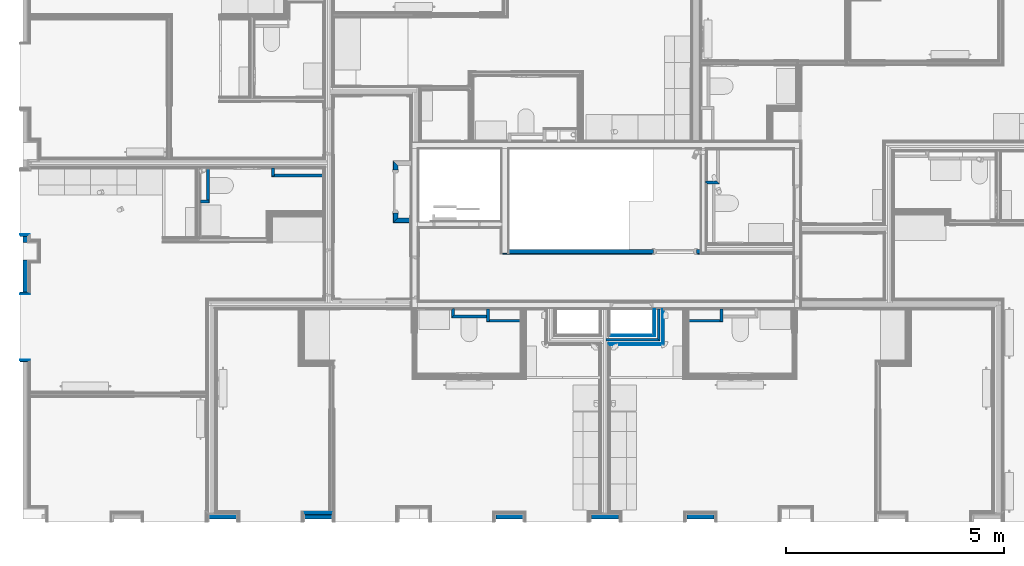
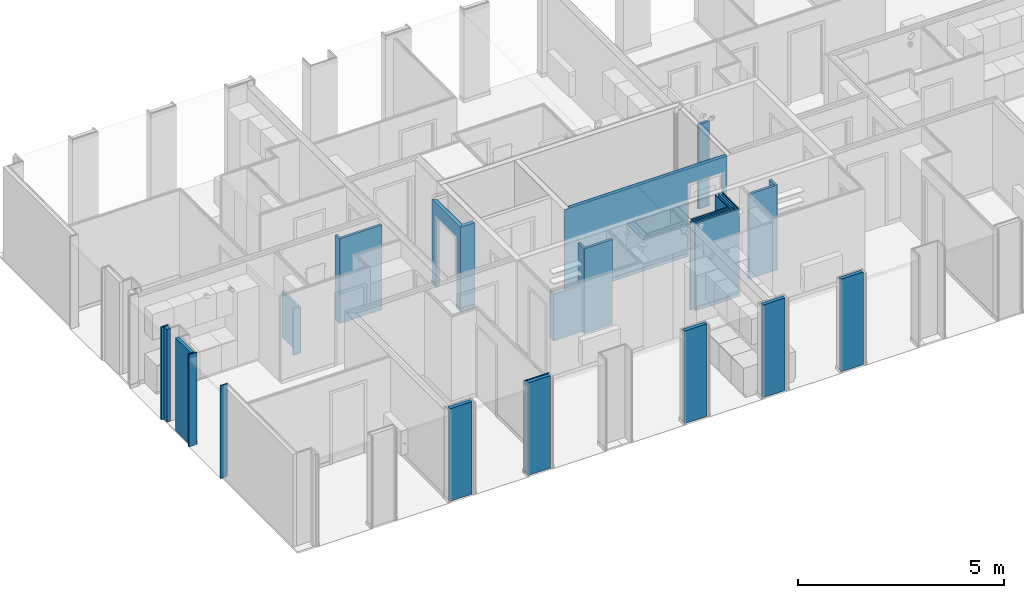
# One storey, part 2 of 85: 40 walls, 2 openings.
"""IFC2X3 building model written with IfcOpenShell, lengths in metres."""

from ifc_helpers import new_model, entity, si_unit, converted_unit, derived_unit, money_unit, direction, frame, frame_2d, origin_with_axes, place, context, subcontext, project, spatial, polyline, rectangle, outline, extrude, clip, bounded_halfspace, material, layer, layer_set, layer_usage, type_object, element, save


model = new_model("IFC2X3")

# Units and contexts
model_context = context("Model", 3, precision=1e-05, world=origin_with_axes(), true_north=direction((0.0, 1.0)))
body_context = subcontext(model_context, "Body", "Model", "MODEL_VIEW", scale=1.0)
ifc_project = project(units=[si_unit("LENGTHUNIT", "METRE"), si_unit("AREAUNIT", "SQUARE_METRE"), si_unit("VOLUMEUNIT", "CUBIC_METRE"), si_unit("ABSORBEDDOSEUNIT", "GRAY"), si_unit("AMOUNTOFSUBSTANCEUNIT", "MOLE"), si_unit("DOSEEQUIVALENTUNIT", "SIEVERT"), si_unit("ELECTRICCAPACITANCEUNIT", "FARAD"), si_unit("ELECTRICCHARGEUNIT", "COULOMB"), si_unit("ELECTRICCONDUCTANCEUNIT", "SIEMENS"), si_unit("ELECTRICCURRENTUNIT", "AMPERE"), si_unit("ELECTRICRESISTANCEUNIT", "OHM"), si_unit("ELECTRICVOLTAGEUNIT", "VOLT"), si_unit("ENERGYUNIT", "JOULE"), si_unit("FORCEUNIT", "NEWTON"), si_unit("FREQUENCYUNIT", "HERTZ"), si_unit("ILLUMINANCEUNIT", "LUX"), si_unit("INDUCTANCEUNIT", "HENRY"), si_unit("LUMINOUSFLUXUNIT", "LUMEN"), si_unit("LUMINOUSINTENSITYUNIT", "CANDELA"), si_unit("MAGNETICFLUXDENSITYUNIT", "TESLA"), si_unit("MAGNETICFLUXUNIT", "WEBER"), si_unit("MASSUNIT", "GRAM"), converted_unit("PLANEANGLEUNIT", "degree", entity("IfcReal", 0.0174532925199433), si_unit("PLANEANGLEUNIT", "RADIAN"), dimensions=[0, 0, 0, 0, 0, 0, 0]), si_unit("POWERUNIT", "WATT"), si_unit("PRESSUREUNIT", "PASCAL"), si_unit("RADIOACTIVITYUNIT", "BECQUEREL"), si_unit("SOLIDANGLEUNIT", "STERADIAN"), si_unit("THERMODYNAMICTEMPERATUREUNIT", "KELVIN"), si_unit("TIMEUNIT", "SECOND"), derived_unit("ACCELERATIONUNIT", [(si_unit("LENGTHUNIT", "METRE"), 1), (si_unit("TIMEUNIT", "SECOND"), -2)]), derived_unit("ANGULARVELOCITYUNIT", [(converted_unit("PLANEANGLEUNIT", "degree", entity("IfcReal", 0.0174532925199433), si_unit("PLANEANGLEUNIT", "RADIAN"), dimensions=[0, 0, 0, 0, 0, 0, 0]), 1), (si_unit("TIMEUNIT", "SECOND"), -1)]), derived_unit("CURVATUREUNIT", [(converted_unit("PLANEANGLEUNIT", "degree", entity("IfcReal", 0.0174532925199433), si_unit("PLANEANGLEUNIT", "RADIAN"), dimensions=[0, 0, 0, 0, 0, 0, 0]), 1), (si_unit("LENGTHUNIT", "METRE"), -1)]), derived_unit("DYNAMICVISCOSITYUNIT", [(si_unit("PRESSUREUNIT", "PASCAL"), 1), (si_unit("TIMEUNIT", "SECOND"), 1)]), derived_unit("HEATFLUXDENSITYUNIT", [(si_unit("POWERUNIT", "WATT"), 1), (si_unit("LENGTHUNIT", "METRE"), -2)]), derived_unit("HEATINGVALUEUNIT", [(si_unit("ENERGYUNIT", "JOULE"), 1), (si_unit("MASSUNIT", "GRAM"), -1)]), derived_unit("INTEGERCOUNTRATEUNIT", [(si_unit("TIMEUNIT", "SECOND"), -1)]), derived_unit("IONCONCENTRATIONUNIT", [(si_unit("MASSUNIT", "GRAM"), 1), (si_unit("VOLUMEUNIT", "CUBIC_METRE"), -1)]), derived_unit("ISOTHERMALMOISTURECAPACITYUNIT", [(si_unit("VOLUMEUNIT", "CUBIC_METRE"), 1), (si_unit("MASSUNIT", "GRAM"), -1)]), derived_unit("KINEMATICVISCOSITYUNIT", [(si_unit("AREAUNIT", "SQUARE_METRE"), 1), (si_unit("TIMEUNIT", "SECOND"), -1)]), derived_unit("LINEARFORCEUNIT", [(si_unit("FORCEUNIT", "NEWTON"), 1), (si_unit("LENGTHUNIT", "METRE"), -1)]), derived_unit("LINEARMOMENTUNIT", [(si_unit("FORCEUNIT", "NEWTON"), 1), (si_unit("LENGTHUNIT", "METRE"), -1)]), derived_unit("LINEARSTIFFNESSUNIT", [(si_unit("FORCEUNIT", "NEWTON"), 1), (si_unit("LENGTHUNIT", "METRE"), -1)]), derived_unit("LINEARVELOCITYUNIT", [(si_unit("LENGTHUNIT", "METRE"), 1), (si_unit("TIMEUNIT", "SECOND"), -1)]), derived_unit("LUMINOUSINTENSITYDISTRIBUTIONUNIT", [(si_unit("LUMINOUSINTENSITYUNIT", "CANDELA"), 1), (si_unit("LUMINOUSFLUXUNIT", "LUMEN"), -1)]), derived_unit("MASSDENSITYUNIT", [(si_unit("MASSUNIT", "GRAM"), 1), (si_unit("VOLUMEUNIT", "CUBIC_METRE"), -1)]), derived_unit("MASSFLOWRATEUNIT", [(si_unit("MASSUNIT", "GRAM"), 1), (si_unit("TIMEUNIT", "SECOND"), -1)]), derived_unit("MASSPERLENGTHUNIT", [(si_unit("MASSUNIT", "GRAM"), 1), (si_unit("LENGTHUNIT", "METRE"), -1)]), derived_unit("MODULUSOFELASTICITYUNIT", [(si_unit("FORCEUNIT", "NEWTON"), 1), (si_unit("AREAUNIT", "SQUARE_METRE"), -1)]), derived_unit("MODULUSOFLINEARSUBGRADEREACTIONUNIT", [(si_unit("FORCEUNIT", "NEWTON"), 1), (si_unit("LENGTHUNIT", "METRE"), -2)]), derived_unit("MODULUSOFROTATIONALSUBGRADEREACTIONUNIT", [(si_unit("FORCEUNIT", "NEWTON"), 1), (si_unit("LENGTHUNIT", "METRE"), 1)]), derived_unit("MODULUSOFSUBGRADEREACTIONUNIT", [(si_unit("FORCEUNIT", "NEWTON"), 1), (si_unit("VOLUMEUNIT", "CUBIC_METRE"), -1)]), derived_unit("MOISTUREDIFFUSIVITYUNIT", [(si_unit("VOLUMEUNIT", "CUBIC_METRE"), 1), (si_unit("TIMEUNIT", "SECOND"), -1)]), derived_unit("MOLECULARWEIGHTUNIT", [(si_unit("MASSUNIT", "GRAM"), 1), (si_unit("AMOUNTOFSUBSTANCEUNIT", "MOLE"), -1)]), derived_unit("PLANARFORCEUNIT", [(si_unit("FORCEUNIT", "NEWTON"), 1), (si_unit("LENGTHUNIT", "METRE"), -2)]), derived_unit("ROTATIONALFREQUENCYUNIT", [(si_unit("TIMEUNIT", "SECOND"), -1)]), derived_unit("ROTATIONALMASSUNIT", [(si_unit("MASSUNIT", "GRAM"), 1), (si_unit("LENGTHUNIT", "METRE"), 2)]), derived_unit("ROTATIONALSTIFFNESSUNIT", [(si_unit("FORCEUNIT", "NEWTON"), 1), (si_unit("LENGTHUNIT", "METRE"), 1), (converted_unit("PLANEANGLEUNIT", "degree", entity("IfcReal", 0.0174532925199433), si_unit("PLANEANGLEUNIT", "RADIAN"), dimensions=[0, 0, 0, 0, 0, 0, 0]), -1)]), derived_unit("SECTIONAREAINTEGRALUNIT", [(si_unit("LENGTHUNIT", "METRE"), 5)]), derived_unit("SECTIONMODULUSUNIT", [(si_unit("LENGTHUNIT", "METRE"), 3)]), derived_unit("SHEARMODULUSUNIT", [(si_unit("FORCEUNIT", "NEWTON"), 1), (si_unit("AREAUNIT", "SQUARE_METRE"), -1)]), derived_unit("SOUNDPOWERUNIT", [(si_unit("ENERGYUNIT", "JOULE"), 1), (si_unit("TIMEUNIT", "SECOND"), -1)]), derived_unit("SPECIFICHEATCAPACITYUNIT", [(si_unit("FORCEUNIT", "NEWTON"), 1), (si_unit("MASSUNIT", "GRAM"), -1), (si_unit("THERMODYNAMICTEMPERATUREUNIT", "KELVIN"), -1)]), derived_unit("TEMPERATUREGRADIENTUNIT", [(si_unit("THERMODYNAMICTEMPERATUREUNIT", "KELVIN"), 1), (si_unit("LENGTHUNIT", "METRE"), -1)]), derived_unit("THERMALADMITTANCEUNIT", [(si_unit("POWERUNIT", "WATT"), 1), (si_unit("AREAUNIT", "SQUARE_METRE"), -1), (si_unit("THERMODYNAMICTEMPERATUREUNIT", "KELVIN"), -1)]), derived_unit("THERMALCONDUCTANCEUNIT", [(si_unit("POWERUNIT", "WATT"), 1), (si_unit("LENGTHUNIT", "METRE"), -1), (si_unit("THERMODYNAMICTEMPERATUREUNIT", "KELVIN"), -1)]), derived_unit("THERMALEXPANSIONCOEFFICIENTUNIT", [(si_unit("THERMODYNAMICTEMPERATUREUNIT", "KELVIN"), -1)]), derived_unit("THERMALRESISTANCEUNIT", [(si_unit("AREAUNIT", "SQUARE_METRE"), 1), (si_unit("POWERUNIT", "WATT"), -1)]), derived_unit("THERMALTRANSMITTANCEUNIT", [(si_unit("POWERUNIT", "WATT"), 1), (si_unit("AREAUNIT", "SQUARE_METRE"), -1), (si_unit("THERMODYNAMICTEMPERATUREUNIT", "KELVIN"), -1)]), derived_unit("TORQUEUNIT", [(si_unit("FORCEUNIT", "NEWTON"), 1), (si_unit("LENGTHUNIT", "METRE"), 1)]), derived_unit("VAPORPERMEABILITYUNIT", [(si_unit("MASSUNIT", "GRAM"), 1), (si_unit("TIMEUNIT", "SECOND"), -1)]), derived_unit("VOLUMETRICFLOWRATEUNIT", [(si_unit("VOLUMEUNIT", "CUBIC_METRE"), 1), (si_unit("TIMEUNIT", "SECOND"), -1)]), derived_unit("WARPINGCONSTANTUNIT", [(si_unit("LENGTHUNIT", "METRE"), 6)]), derived_unit("WARPINGMOMENTUNIT", [(si_unit("FORCEUNIT", "NEWTON"), 1), (si_unit("LENGTHUNIT", "METRE"), 2)]), money_unit("GBP")], contexts=[model_context])

# Site, building, storey
site_placement = place(None, origin_with_axes())
site = spatial("IfcSite", under=ifc_project, at=site_placement, Name="Site", CompositionType="ELEMENT")
building_placement = place(site_placement, origin_with_axes())
building = spatial("IfcBuilding", under=site, at=building_placement, Name="Building01", CompositionType="ELEMENT")
storey_placement = place(building_placement, frame((0.0, 0.0, 12.13), z_axis=(0.0, 0.0, 1.0), x_axis=(1.0, 0.0, 0.0)))
storey = spatial("IfcBuildingStorey", under=building, at=storey_placement, Name="3F", CompositionType="ELEMENT", Elevation=12.13)

# Walls
ifc_material_1 = material(Name="A_BSUK_WallsExternal_Block")
ifc_layer_1 = layer(ifc_material_1, 0.1, ventilated=False)
ifc_layer_set_1 = layer_set([ifc_layer_1])
ifc_layer_usage_1 = layer_usage(ifc_layer_set_1, "AXIS2", "POSITIVE", 0.0)
wall_type_1 = type_object("IfcWallType", Name="A-Walls-ExternalBlock", PredefinedType="NOTDEFINED")
wall_1_placement = place(storey_placement, frame((0.17, 6.64418, 0.0), z_axis=(0.0, 0.0, 1.0), x_axis=(0.0, -1.0, 0.0)))
element("IfcWallStandardCase", 1, at=wall_1_placement, inside=storey, type_object=wall_type_1, material=ifc_layer_usage_1, Name="A-Walls-ExternalBlock", ObjectType="A-Walls-ExternalBlock", context=body_context, shape_type="SweptSolid", body=[
    extrude(rectangle(XDim=0.14418, YDim=0.1, at=frame_2d((0.07209, 0.05), x_axis=(1.0, 0.0))), origin_with_axes(), (0.0, 0.0, 1.0), 2.74),
])
wall_2_placement = place(storey_placement, frame((0.17, 6.1, 0.0), z_axis=(0.0, 0.0, 1.0), x_axis=(0.0, -1.0, 0.0)))
element("IfcWallStandardCase", 2, at=wall_2_placement, inside=storey, type_object=wall_type_1, material=ifc_layer_usage_1, Name="A-Walls-ExternalBlock", ObjectType="A-Walls-ExternalBlock", context=body_context, shape_type="SweptSolid", body=[
    extrude(rectangle(XDim=0.737, YDim=0.1, at=frame_2d((0.3685, 0.05), x_axis=(1.0, 0.0))), origin_with_axes(), (0.0, 0.0, 1.0), 2.74),
])
for number, where, z_axis, x_axis, name in (
    (3, (5.057, 0.27, 0.0), (0.0, 0.0, 1.0), (-1.0, 0.0, 0.0), "A-Walls-ExternalBlock"),
    (4, (7.247, 0.27, 0.0), (0.0, 0.0, 1.0), (-1.0, 0.0, 0.0), "A-Walls-ExternalBlock"),
    (5, (11.627, 0.27, 0.0), (0.0, 0.0, 1.0), (-1.0, 0.0, 0.0), "A-Walls-ExternalBlock"),
    (6, (13.817, 0.27, 0.0), (0.0, 0.0, 1.0), (-1.0, 0.0, 0.0), "A-Walls-ExternalBlock"),
    (7, (16.007, 0.27, 0.0), (0.0, 0.0, 1.0), (-1.0, 0.0, 0.0), "A-Walls-ExternalBlock"),
):
    element("IfcWallStandardCase", number, at=place(storey_placement, frame(where, z_axis=z_axis, x_axis=x_axis)), inside=storey, type_object=wall_type_1, material=ifc_layer_usage_1, Name=name, ObjectType="A-Walls-ExternalBlock", context=body_context, shape_type="SweptSolid", body=[
        extrude(rectangle(XDim=0.624, YDim=0.1, at=frame_2d((0.312, 0.05), x_axis=(-1.0, 0.0))), origin_with_axes(), (0.0, 0.0, 1.0), 2.74),
    ])
ifc_material_2 = material(Name="A_BSUK_Walls_Timber")
ifc_layer_2 = layer(ifc_material_2, 0.015, ventilated=False)
ifc_material_3 = material(Name="A_BSUK_OpeningsClearance")
ifc_layer_3 = layer(ifc_material_3, 0.05, ventilated=False)
ifc_layer_set_2 = layer_set([ifc_layer_2, ifc_layer_3])
ifc_layer_usage_2 = layer_usage(ifc_layer_set_2, "AXIS2", "POSITIVE", 0.0)
wall_type_2 = type_object("IfcWallType", Name="SHE_A-Walls_Type05c_PreWallShell_65mm", PredefinedType="NOTDEFINED")
wall_3_placement = place(storey_placement, frame((15.815, 7.915, 0.0), z_axis=(0.0, 0.0, 1.0), x_axis=(1.0, 0.0, 0.0)))
element("IfcWallStandardCase", 8, at=wall_3_placement, inside=storey, type_object=wall_type_2, material=ifc_layer_usage_2, Name="5C", ObjectType="SHE_A-Walls_Type05c_PreWallShell_65mm", context=body_context, shape_type="SweptSolid", body=[
    extrude(outline(polyline([(0.25, 0.0), (0.0, 0.0), (0.0, -0.05), (0.03, -0.05), (0.03, -0.065), (0.315, -0.065), (0.25, 0.0)])), origin_with_axes(), (0.0, 0.0, 1.0), 2.51),
])
wall_4_placement = place(storey_placement, frame((16.1425, 4.695, 0.0), z_axis=(0.0, 0.0, 1.0), x_axis=(0.0, 1.0, 0.0)))
element("IfcWallStandardCase", 9, at=wall_4_placement, inside=storey, type_object=wall_type_2, material=ifc_layer_usage_2, Name="5C", ObjectType="SHE_A-Walls_Type05c_PreWallShell_65mm", context=body_context, shape_type="SweptSolid", body=[
    extrude(outline(polyline([(0.285, 0.0), (0.0, 0.0), (0.0, -0.05), (-0.015, -0.05), (-0.015, -0.065), (0.285, -0.065), (0.285, 0.0)])), origin_with_axes(), (0.0, 0.0, 1.0), 2.51),
])
wall_5_placement = place(storey_placement, frame((15.4075, 4.745, 0.0), z_axis=(0.0, 0.0, 1.0), x_axis=(1.0, 0.0, 0.0)))
element("IfcWallStandardCase", 10, at=wall_5_placement, inside=storey, type_object=wall_type_2, material=ifc_layer_usage_2, Name="5C", ObjectType="SHE_A-Walls_Type05c_PreWallShell_65mm", context=body_context, shape_type="SweptSolid", body=[
    extrude(outline(polyline([(0.735, -0.05), (0.735, 0.0), (0.0, 0.0), (0.0, -0.065), (0.785, -0.065), (0.785, -0.05), (0.735, -0.05)])), origin_with_axes(), (0.0, 0.0, 1.0), 2.51),
])
wall_6_placement = place(storey_placement, frame((10.057536, 4.845, 0.0), z_axis=(0.0, 0.0, 1.0), x_axis=(0.0, -1.0, 0.0)))
element("IfcWallStandardCase", 11, at=wall_6_placement, inside=storey, type_object=wall_type_2, material=ifc_layer_usage_2, Name="5C", ObjectType="SHE_A-Walls_Type05c_PreWallShell_65mm", context=body_context, shape_type="SweptSolid", body=[
    extrude(outline(polyline([(0.065, -0.065), (0.0, 0.0), (-0.15, 0.0), (-0.15, -0.05), (-0.12, -0.05), (-0.12, -0.065), (0.065, -0.065)])), origin_with_axes(), (0.0, 0.0, 1.0), 1.375),
])
wall_7_placement = place(storey_placement, frame((10.792536, 4.845, 0.0), z_axis=(0.0, 0.0, 1.0), x_axis=(1.0, 0.0, 0.0)))
element("IfcWallStandardCase", 12, at=wall_7_placement, inside=storey, type_object=wall_type_2, material=ifc_layer_usage_2, Name="5C", ObjectType="SHE_A-Walls_Type05c_PreWallShell_65mm", context=body_context, shape_type="SweptSolid", body=[
    extrude(outline(polyline([(0.0, -0.065), (0.0, 0.0), (-0.735, 0.0), (-0.8, -0.065), (0.0, -0.065)])), origin_with_axes(), (0.0, 0.0, 1.0), 1.375),
])
ifc_layer_set_3 = layer_set([ifc_layer_3, ifc_layer_2])
ifc_layer_usage_3 = layer_usage(ifc_layer_set_3, "AXIS2", "POSITIVE", 0.0)
wall_8_placement = place(storey_placement, frame((10.857536, 4.695, 0.0), z_axis=(0.0, 0.0, 1.0), x_axis=(0.0, 1.0, 0.0)))
element("IfcWallStandardCase", 13, at=wall_8_placement, inside=storey, type_object=wall_type_2, material=ifc_layer_usage_3, Name="5C", ObjectType="SHE_A-Walls_Type05c_PreWallShell_65mm", context=body_context, shape_type="SweptSolid", body=[
    extrude(outline(polyline([(0.285, 0.065), (-0.015, 0.065), (-0.015, 0.05), (0.0, 0.05), (0.0, 0.0), (0.285, 0.0), (0.285, 0.065)])), origin_with_axes(), (0.0, 0.0, 1.0), 2.51),
])
wall_9_placement = place(storey_placement, frame((11.592536, 4.745, 0.0), z_axis=(0.0, 0.0, 1.0), x_axis=(-1.0, 0.0, 0.0)))
element("IfcWallStandardCase", 14, at=wall_9_placement, inside=storey, type_object=wall_type_2, material=ifc_layer_usage_3, Name="5C", ObjectType="SHE_A-Walls_Type05c_PreWallShell_65mm", context=body_context, shape_type="SweptSolid", body=[
    extrude(outline(polyline([(0.735, 0.05), (0.785, 0.05), (0.785, 0.065), (0.0, 0.065), (0.0, 0.0), (0.735, 0.0), (0.735, 0.05)])), origin_with_axes(), (0.0, 0.0, 1.0), 2.51),
])
wall_10_placement = place(storey_placement, frame((5.929669, 8.21067, 0.0), z_axis=(0.0, 0.0, 1.0), x_axis=(0.0, -1.0, 0.0)))
element("IfcWallStandardCase", 15, at=wall_10_placement, inside=storey, type_object=wall_type_2, material=ifc_layer_usage_2, Name="5C", ObjectType="SHE_A-Walls_Type05c_PreWallShell_65mm", context=body_context, shape_type="SweptSolid", body=[
    extrude(outline(polyline([(0.185, -0.05), (0.185, 0.0), (0.0, 0.0), (0.0, -0.065), (0.2, -0.065), (0.2, -0.05), (0.185, -0.05)])), origin_with_axes(), (0.0, 0.0, 1.0), 2.51),
])
wall_11_placement = place(storey_placement, frame((5.929669, 8.07567, 0.0), z_axis=(0.0, 0.0, 1.0), x_axis=(1.0, 0.0, 0.0)))
element("IfcWallStandardCase", 16, at=wall_11_placement, inside=storey, type_object=wall_type_2, material=ifc_layer_usage_2, Name="5C", ObjectType="SHE_A-Walls_Type05c_PreWallShell_65mm", context=body_context, shape_type="SweptSolid", body=[
    extrude(outline(polyline([(1.135, 0.0), (0.0, 0.0), (0.0, -0.05), (-0.05, -0.05), (-0.05, -0.065), (1.135, -0.065), (1.135, 0.0)])), origin_with_axes(), (0.0, 0.0, 1.0), 2.51),
])
wall_12_placement = place(storey_placement, frame((4.37573, 8.21067, 0.0), z_axis=(0.0, 0.0, 1.0), x_axis=(0.0, -1.0, 0.0)))
element("IfcWallStandardCase", 17, at=wall_12_placement, inside=storey, type_object=wall_type_2, material=ifc_layer_usage_3, Name="5C", ObjectType="SHE_A-Walls_Type05c_PreWallShell_65mm", context=body_context, shape_type="SweptSolid", body=[
    extrude(outline(polyline([(0.735, 0.05), (0.8, 0.05), (0.8, 0.065), (0.0, 0.065), (0.0, 0.0), (0.735, 0.0), (0.735, 0.05)])), origin_with_axes(), (0.0, 0.0, 1.0), 1.375),
])
wall_13_placement = place(storey_placement, frame((4.42573, 7.47567, 0.0), z_axis=(0.0, 0.0, 1.0), x_axis=(-1.0, 0.0, 0.0)))
element("IfcWallStandardCase", 18, at=wall_13_placement, inside=storey, type_object=wall_type_2, material=ifc_layer_usage_3, Name="5C", ObjectType="SHE_A-Walls_Type05c_PreWallShell_65mm", context=body_context, shape_type="SweptSolid", body=[
    extrude(rectangle(XDim=0.185, YDim=0.065, at=frame_2d((0.0925, 0.0325), x_axis=(-1.0, 0.0))), origin_with_axes(), (0.0, 0.0, 1.0), 1.375),
])
ifc_material_4 = material(Name="A_BSUK_WallInternal_Finishes_Plasterboard")
ifc_layer_4 = layer(ifc_material_4, 0.013, ventilated=False)
ifc_layer_set_4 = layer_set([ifc_layer_4])
ifc_layer_usage_4 = layer_usage(ifc_layer_set_4, "AXIS2", "POSITIVE", 0.0)
wall_type_3 = type_object("IfcWallType", Name="default", PredefinedType="NOTDEFINED")
wall_14_placement = place(storey_placement, frame((0.1, 6.67918, 0.0), z_axis=(0.0, 0.0, 1.0), x_axis=(1.0, 0.0, 0.0)))
element("IfcWallStandardCase", 19, at=wall_14_placement, inside=storey, type_object=wall_type_3, material=ifc_layer_usage_4, Name="default", ObjectType="default", context=body_context, shape_type="SweptSolid", body=[
    extrude(outline(polyline([(0.218, 0.013), (0.0, 0.013), (0.0, 0.0), (0.205, 0.0), (0.218, 0.013)])), origin_with_axes(), (0.0, 0.0, 1.0), 2.74),
])
ifc_material_5 = material(Name="A_BSUK_Insulation")
ifc_layer_5 = layer(ifc_material_5, 0.036, ventilated=False)
ifc_layer_set_5 = layer_set([ifc_layer_5])
ifc_layer_usage_5 = layer_usage(ifc_layer_set_5, "AXIS2", "POSITIVE", 0.0)
wall_15_placement = place(storey_placement, frame((0.1, 6.64418, 0.0), z_axis=(0.0, 0.0, 1.0), x_axis=(1.0, 0.0, 0.0)))
element("IfcWallStandardCase", 20, at=wall_15_placement, inside=storey, type_object=wall_type_3, material=ifc_layer_usage_5, Name="default", ObjectType="default", context=body_context, shape_type="SweptSolid", body=[
    extrude(outline(polyline([(0.206, 0.036), (0.0, 0.036), (0.0, 0.0), (0.17, 0.0), (0.206, 0.036)])), origin_with_axes(), (0.0, 0.0, 1.0), 2.74),
])
wall_16_placement = place(storey_placement, frame((0.305, 5.328, 0.0), z_axis=(0.0, 0.0, 1.0), x_axis=(-1.0, 0.0, 0.0)))
element("IfcWallStandardCase", 21, at=wall_16_placement, inside=storey, type_object=wall_type_3, material=ifc_layer_usage_4, Name="default", ObjectType="default", context=body_context, shape_type="SweptSolid", body=[
    extrude(outline(polyline([(-0.013, 0.013), (0.0, 0.0), (0.205, 0.0), (0.205, 0.013), (-0.013, 0.013)])), origin_with_axes(), (0.0, 0.0, 1.0), 2.74),
])
wall_17_placement = place(storey_placement, frame((0.27, 5.363, 0.0), z_axis=(0.0, 0.0, 1.0), x_axis=(-1.0, 0.0, 0.0)))
element("IfcWallStandardCase", 22, at=wall_17_placement, inside=storey, type_object=wall_type_3, material=ifc_layer_usage_5, Name="default", ObjectType="default", context=body_context, shape_type="SweptSolid", body=[
    extrude(outline(polyline([(-0.036, 0.036), (0.0, 0.0), (0.17, 0.0), (0.17, 0.036), (-0.036, 0.036)])), origin_with_axes(), (0.0, 0.0, 1.0), 2.74),
])
wall_18_placement = place(storey_placement, frame((0.1, 3.80918, 0.0), z_axis=(0.0, 0.0, 1.0), x_axis=(1.0, 0.0, 0.0)))
element("IfcWallStandardCase", 23, at=wall_18_placement, inside=storey, type_object=wall_type_3, material=ifc_layer_usage_4, Name="default", ObjectType="default", context=body_context, shape_type="SweptSolid", body=[
    extrude(outline(polyline([(0.218, 0.013), (0.0, 0.013), (0.0, 0.0), (0.205, 0.0), (0.218, 0.013)])), origin_with_axes(), (0.0, 0.0, 1.0), 2.74),
])
wall_19_placement = place(storey_placement, frame((0.1, 3.77418, 0.0), z_axis=(0.0, 0.0, 1.0), x_axis=(1.0, 0.0, 0.0)))
element("IfcWallStandardCase", 24, at=wall_19_placement, inside=storey, type_object=wall_type_3, material=ifc_layer_usage_5, Name="default", ObjectType="default", context=body_context, shape_type="SweptSolid", body=[
    extrude(outline(polyline([(0.206, 0.036), (0.0, 0.036), (0.0, 0.0), (0.17, 0.0), (0.206, 0.036)])), origin_with_axes(), (0.0, 0.0, 1.0), 2.74),
])
ifc_layer_6 = layer(ifc_material_4, 0.015, ventilated=False)
ifc_layer_set_6 = layer_set([ifc_layer_6])
ifc_layer_usage_6 = layer_usage(ifc_layer_set_6, "AXIS2", "POSITIVE", 0.0)
wall_20_placement = place(storey_placement, frame((14.625, 4.389428, 0.0), z_axis=(0.0, 0.0, 1.0), x_axis=(-1.0, 0.0, 0.0)))
element("IfcWallStandardCase", 25, at=wall_20_placement, inside=storey, type_object=wall_type_3, material=ifc_layer_usage_6, Name="default", ObjectType="default", context=body_context, shape_type="SweptSolid", body=[
    extrude(outline(polyline([(1.0275, 0.015), (-0.015, 0.015), (0.0, 0.0), (1.0275, 0.0), (1.0275, 0.015)])), origin_with_axes(), (0.0, 0.0, 1.0), 2.59),
])
wall_21_placement = place(storey_placement, frame((14.64, 4.374428, 0.0), z_axis=(0.0, 0.0, 1.0), x_axis=(-1.0, 0.0, 0.0)))
element("IfcWallStandardCase", 26, at=wall_21_placement, inside=storey, type_object=wall_type_3, material=ifc_layer_usage_6, Name="default", ObjectType="default", context=body_context, shape_type="SweptSolid", body=[
    extrude(outline(polyline([(1.0425, 0.015), (-0.015, 0.015), (0.0, 0.0), (1.0425, 0.0), (1.0425, 0.015)])), origin_with_axes(), (0.0, 0.0, 1.0), 2.59),
])
ifc_layer_7 = layer(ifc_material_5, 0.05, ventilated=False)
ifc_layer_set_7 = layer_set([ifc_layer_7])
ifc_layer_usage_7 = layer_usage(ifc_layer_set_7, "AXIS2", "POSITIVE", 0.0)
wall_22_placement = place(storey_placement, frame((14.712, 4.302428, 0.0), z_axis=(0.0, 0.0, 1.0), x_axis=(-1.0, 0.0, 0.0)))
element("IfcWallStandardCase", 27, at=wall_22_placement, inside=storey, type_object=wall_type_3, material=ifc_layer_usage_7, Name="default", ObjectType="default", context=body_context, shape_type="SweptSolid", body=[
    extrude(outline(polyline([(1.1865, 0.05), (-0.05, 0.05), (0.0, 0.0), (1.1865, 0.0), (1.1865, 0.05)])), origin_with_axes(), (0.0, 0.0, 1.0), 2.59),
])
for number, where, z_axis, x_axis, name in (
    (28, (14.82, 4.194428, 0.0), (0.0, 0.0, 1.0), (-1.0, 0.0, 0.0), "default"),
    (29, (14.835, 4.179428, 0.0), (0.0, 0.0, 1.0), (-1.0, 0.0, 0.0), "default"),
):
    element("IfcWallStandardCase", number, at=place(storey_placement, frame(where, z_axis=z_axis, x_axis=x_axis)), inside=storey, type_object=wall_type_3, material=ifc_layer_usage_6, Name=name, ObjectType="default", context=body_context, shape_type="SweptSolid", body=[
        extrude(outline(polyline([(1.2225, 0.015), (-0.015, 0.015), (0.0, 0.0), (1.2225, 0.0), (1.2225, 0.015)])), origin_with_axes(), (0.0, 0.0, 1.0), 2.59),
    ])
ifc_layer_set_8 = layer_set([ifc_layer_2])
ifc_layer_usage_8 = layer_usage(ifc_layer_set_8, "AXIS2", "POSITIVE", 0.0)
wall_23_placement = place(storey_placement, frame((14.865, 4.164428, 0.015), z_axis=(0.0, 0.0, 1.0), x_axis=(-1.0, 0.0, 0.0)))
element("IfcWallStandardCase", 30, at=wall_23_placement, inside=storey, type_object=wall_type_3, material=ifc_layer_usage_8, Name="default", ObjectType="default", context=body_context, shape_type="SweptSolid", body=[
    extrude(rectangle(XDim=1.2375, YDim=0.015, at=frame_2d((0.61875, 0.0075), x_axis=(-1.0, 0.0))), origin_with_axes(), (0.0, 0.0, 1.0), 0.1),
])
wall_24_placement = place(storey_placement, frame((14.625, 4.98, 0.0), z_axis=(0.0, 0.0, 1.0), x_axis=(0.0, -1.0, 0.0)))
element("IfcWallStandardCase", 31, at=wall_24_placement, inside=storey, type_object=wall_type_3, material=ifc_layer_usage_6, Name="default", ObjectType="default", context=body_context, shape_type="SweptSolid", body=[
    extrude(outline(polyline([(0.605572, 0.015), (0.0, 0.015), (0.0, 0.0), (0.590572, 0.0), (0.605572, 0.015)])), origin_with_axes(), (0.0, 0.0, 1.0), 2.59),
])
wall_25_placement = place(storey_placement, frame((14.64, 4.98, 0.0), z_axis=(0.0, 0.0, 1.0), x_axis=(0.0, -1.0, 0.0)))
element("IfcWallStandardCase", 32, at=wall_25_placement, inside=storey, type_object=wall_type_3, material=ifc_layer_usage_6, Name="default", ObjectType="default", context=body_context, shape_type="SweptSolid", body=[
    extrude(outline(polyline([(0.620572, 0.015), (0.0, 0.015), (0.0, 0.0), (0.605572, 0.0), (0.620572, 0.015)])), origin_with_axes(), (0.0, 0.0, 1.0), 2.59),
])
wall_26_placement = place(storey_placement, frame((14.712, 4.98, 0.0), z_axis=(0.0, 0.0, 1.0), x_axis=(0.0, -1.0, 0.0)))
element("IfcWallStandardCase", 33, at=wall_26_placement, inside=storey, type_object=wall_type_3, material=ifc_layer_usage_7, Name="default", ObjectType="default", context=body_context, shape_type="SweptSolid", body=[
    extrude(outline(polyline([(0.727572, 0.05), (0.0, 0.05), (0.0, 0.0), (0.677572, 0.0), (0.727572, 0.05)])), origin_with_axes(), (0.0, 0.0, 1.0), 2.59),
])
wall_27_placement = place(storey_placement, frame((14.82, 4.98, 0.0), z_axis=(0.0, 0.0, 1.0), x_axis=(0.0, -1.0, 0.0)))
element("IfcWallStandardCase", 34, at=wall_27_placement, inside=storey, type_object=wall_type_3, material=ifc_layer_usage_6, Name="default", ObjectType="default", context=body_context, shape_type="SweptSolid", body=[
    extrude(outline(polyline([(0.800572, 0.015), (0.0, 0.015), (0.0, 0.0), (0.785572, 0.0), (0.800572, 0.015)])), origin_with_axes(), (0.0, 0.0, 1.0), 2.59),
])
wall_28_placement = place(storey_placement, frame((14.835, 4.98, 0.0), z_axis=(0.0, 0.0, 1.0), x_axis=(0.0, -1.0, 0.0)))
element("IfcWallStandardCase", 35, at=wall_28_placement, inside=storey, type_object=wall_type_3, material=ifc_layer_usage_6, Name="default", ObjectType="default", context=body_context, shape_type="SweptSolid", body=[
    extrude(outline(polyline([(0.815572, 0.015), (0.0, 0.015), (0.0, 0.0), (0.800572, 0.0), (0.815572, 0.015)])), origin_with_axes(), (0.0, 0.0, 1.0), 2.59),
])
wall_29_placement = place(storey_placement, frame((6.588, 0.305, 0.0), z_axis=(0.0, 0.0, 1.0), x_axis=(1.0, 0.0, 0.0)))
element("IfcWallStandardCase", 36, at=wall_29_placement, inside=storey, type_object=wall_type_3, material=ifc_layer_usage_4, Name="default", ObjectType="default", context=body_context, shape_type="SweptSolid", body=[
    extrude(outline(polyline([(0.707, 0.013), (-0.013, 0.013), (0.0, 0.0), (0.694, 0.0), (0.707, 0.013)])), origin_with_axes(), (0.0, 0.0, 1.0), 2.74),
])
wall_30_placement = place(storey_placement, frame((6.623, 0.27, 0.0), z_axis=(0.0, 0.0, 1.0), x_axis=(1.0, 0.0, 0.0)))
element("IfcWallStandardCase", 37, at=wall_30_placement, inside=storey, type_object=wall_type_3, material=ifc_layer_usage_5, Name="default", ObjectType="default", context=body_context, shape_type="SweptSolid", body=[
    extrude(outline(polyline([(0.66, 0.036), (-0.036, 0.036), (0.0, 0.0), (0.624, 0.0), (0.66, 0.036)])), origin_with_axes(), (0.0, 0.0, 1.0), 2.74),
])
ifc_material_6 = material(Name="Air Cavity")
ifc_layer_8 = layer(ifc_material_6, 0.072, ventilated=False)
ifc_layer_set_9 = layer_set([ifc_layer_6, ifc_layer_8, ifc_layer_6, ifc_layer_2])
ifc_layer_usage_9 = layer_usage(ifc_layer_set_9, "AXIS2", "POSITIVE", 0.0)
wall_type_4 = type_object("IfcWallType", Name="SHE_A-Walls_Type04c_RiserWall_102mm_tall", PredefinedType="NOTDEFINED")
wall_31_placement = place(storey_placement, frame((9.06, 6.968405, 0.015), z_axis=(0.0, 0.0, 1.0), x_axis=(-1.0, 0.0, 0.0)))
element("IfcWallStandardCase", 38, at=wall_31_placement, inside=storey, type_object=wall_type_4, material=ifc_layer_usage_9, Name="4C", ObjectType="SHE_A-Walls_Type04c_RiserWall_102mm_tall", context=body_context, shape_type="Clipping", body=[
    clip(clip(extrude(outline(polyline([(0.417, 0.015), (0.0, 0.015), (0.0, -0.015), (0.015, -0.015), (0.015, -0.102), (0.3, -0.102), (0.417, 0.015)])), frame((0.0, 0.0, -0.015), z_axis=(0.0, 0.0, 1.0), x_axis=(1.0, 0.0, 0.0)), (0.0, 0.0, 1.0), 2.51), bounded_halfspace(frame((0.0, 0.0, 0.1), z_axis=(0.0, 0.0, 1.0), x_axis=(1.0, 0.0, 0.0)), False, frame((0.0, 0.0, 0.1), z_axis=(0.0, 0.0, 1.0), x_axis=(1.0, 0.0, 0.0)), polyline([(0.417, 0.015), (0.0, 0.015), (0.0, 0.0), (0.402, 0.0), (0.417, 0.015)]))), bounded_halfspace(frame((0.0, 0.0, 0.0), z_axis=(0.0, 0.0, -1.0), x_axis=(-1.0, 0.0, 0.0)), False, frame((0.0, 0.0, 0.0), z_axis=(0.0, 0.0, -1.0), x_axis=(-1.0, 0.0, 0.0)), polyline([(-0.402, 0.0), (0.0, 0.0), (0.0, 0.015), (-0.417, 0.015), (-0.402, 0.0)]))),
])

# Wall, opening
wall_32_placement = place(storey_placement, frame((8.658, 6.968405, 0.015), z_axis=(0.0, 0.0, 1.0), x_axis=(0.0, 1.0, 0.0)))
wall_32 = element("IfcWallStandardCase", 39, at=wall_32_placement, inside=storey, type_object=wall_type_4, material=ifc_layer_usage_9, Name="4C", ObjectType="SHE_A-Walls_Type04c_RiserWall_102mm_tall", context=body_context, shape_type="Clipping", body=[
    clip(clip(extrude(outline(polyline([(1.389, -0.015), (1.389, 0.0), (1.404, 0.0), (1.419, 0.015), (-0.015, 0.015), (0.102, -0.102), (1.302, -0.102), (1.389, -0.015)])), frame((0.0, 0.0, -0.015), z_axis=(0.0, 0.0, 1.0), x_axis=(1.0, 0.0, 0.0)), (0.0, 0.0, 1.0), 2.51), bounded_halfspace(frame((0.0, 0.0, 0.1), z_axis=(0.0, 0.0, 1.0), x_axis=(1.0, 0.0, 0.0)), False, frame((0.0, 0.0, 0.1), z_axis=(0.0, 0.0, 1.0), x_axis=(1.0, 0.0, 0.0)), polyline([(1.419, 0.015), (-0.015, 0.015), (0.0, 0.0), (1.404, 0.0), (1.419, 0.015)]))), bounded_halfspace(frame((0.0, 0.0, 0.0), z_axis=(0.0, 0.0, -1.0), x_axis=(-1.0, 0.0, 0.0)), False, frame((0.0, 0.0, 0.0), z_axis=(0.0, 0.0, -1.0), x_axis=(-1.0, 0.0, 0.0)), polyline([(-1.404, 0.0), (0.0, 0.0), (0.015, 0.015), (-1.419, 0.015), (-1.404, 0.0)]))),
])
opening_1_placement = place(wall_32_placement, frame((0.21, -0.102, -0.015), z_axis=(0.0, 0.0, 1.0), x_axis=(1.0, 0.0, 0.0)))
element("IfcOpeningElement", 40, at=opening_1_placement, cuts=wall_32, Name="Opening", ObjectType="Opening", context=body_context, shape_type="SweptSolid", body=[
    extrude(rectangle(XDim=0.984, YDim=2.1, at=frame_2d((-0.492, 1.05), x_axis=(1.0, 0.0))), frame((0.0, 0.0, 0.0), z_axis=(0.0, 1.0, 0.0), x_axis=(-1.0, 0.0, 0.0)), (0.0, 0.0, 1.0), 0.117),
])

ifc_layer_9 = layer(ifc_material_4, 0.012, ventilated=False)
ifc_layer_10 = layer(ifc_material_6, 0.05, ventilated=False)
ifc_layer_set_10 = layer_set([ifc_layer_2, ifc_layer_4, ifc_layer_9, ifc_layer_10, ifc_layer_9, ifc_layer_4])
ifc_layer_usage_10 = layer_usage(ifc_layer_set_10, "AXIS2", "POSITIVE", 0.0)
wall_type_5 = type_object("IfcWallType", Name="SHE_A-Walls_Type03c_Firewall_F120_100mm", PredefinedType="NOTDEFINED")
wall_33_placement = place(storey_placement, frame((11.115, 6.25, 0.015), z_axis=(0.0, 0.0, 1.0), x_axis=(1.0, 0.0, 0.0)))
wall_33 = element("IfcWallStandardCase", 41, at=wall_33_placement, inside=storey, type_object=wall_type_5, material=ifc_layer_usage_10, Name="3C", ObjectType="SHE_A-Walls_Type03c_Firewall_F120_100mm", context=body_context, shape_type="Clipping", body=[
    clip(clip(extrude(outline(polyline([(4.585, 0.0), (4.585, 0.1), (0.185, 0.1), (0.185, 0.013), (0.03, 0.013), (0.03, 0.0), (0.0, 0.0), (0.0, -0.015), (4.57, -0.015), (4.585, 0.0)])), frame((0.0, 0.0, -0.015), z_axis=(0.0, 0.0, 1.0), x_axis=(1.0, 0.0, 0.0)), (0.0, 0.0, 1.0), 2.59), bounded_halfspace(frame((0.0, 0.0, 0.1), z_axis=(0.0, 0.0, 1.0), x_axis=(1.0, 0.0, 0.0)), False, frame((0.0, 0.0, 0.1), z_axis=(0.0, 0.0, 1.0), x_axis=(1.0, 0.0, 0.0)), polyline([(4.585, 0.0), (0.0, 0.0), (0.0, -0.015), (4.57, -0.015), (4.585, 0.0)]))), bounded_halfspace(frame((0.0, 0.0, 0.0), z_axis=(0.0, 0.0, -1.0), x_axis=(-1.0, 0.0, 0.0)), False, frame((0.0, 0.0, 0.0), z_axis=(0.0, 0.0, -1.0), x_axis=(-1.0, 0.0, 0.0)), polyline([(-4.57, -0.015), (0.0, -0.015), (0.0, 0.0), (-4.585, 0.0), (-4.57, -0.015)]))),
])
opening_2_placement = place(wall_33_placement, frame((3.501, -0.015, -0.03), z_axis=(0.0, 0.0, 1.0), x_axis=(1.0, 0.0, 0.0)))
element("IfcOpeningElement", 42, at=opening_2_placement, cuts=wall_33, Name="Opening", ObjectType="Opening", context=body_context, shape_type="SweptSolid", body=[
    extrude(rectangle(XDim=2.142, YDim=0.984, at=frame_2d((-0.492, 1.071), x_axis=(0.0, 1.0))), frame((0.0, 0.0, 0.0), z_axis=(0.0, 1.0, 0.0), x_axis=(-1.0, 0.0, 0.0)), (0.0, 0.0, 1.0), 0.115),
    extrude(rectangle(XDim=0.984, YDim=2.157, at=frame_2d((-0.492, 1.0785), x_axis=(1.0, 0.0))), frame((0.0, 0.015, 0.0), z_axis=(0.0, 1.0, 0.0), x_axis=(-1.0, 0.0, 0.0)), (0.0, 0.0, 1.0), 0.013),
    extrude(rectangle(XDim=0.984, YDim=2.157, at=frame_2d((-0.492, 1.0785), x_axis=(1.0, 0.0))), frame((0.0, 0.028, 0.0), z_axis=(0.0, 1.0, 0.0), x_axis=(-1.0, 0.0, 0.0)), (0.0, 0.0, 1.0), 0.012),
    extrude(rectangle(XDim=0.984, YDim=2.157, at=frame_2d((-0.492, 1.0785), x_axis=(1.0, 0.0))), frame((0.0, 0.04, 0.0), z_axis=(0.0, 1.0, 0.0), x_axis=(-1.0, 0.0, 0.0)), (0.0, 0.0, 1.0), 0.05),
    extrude(rectangle(XDim=0.984, YDim=2.157, at=frame_2d((-0.492, 1.0785), x_axis=(1.0, 0.0))), frame((0.0, 0.09, 0.0), z_axis=(0.0, 1.0, 0.0), x_axis=(-1.0, 0.0, 0.0)), (0.0, 0.0, 1.0), 0.012),
    extrude(rectangle(XDim=0.984, YDim=2.157, at=frame_2d((-0.492, 1.0785), x_axis=(1.0, 0.0))), frame((0.0, 0.102, 0.0), z_axis=(0.0, 1.0, 0.0), x_axis=(-1.0, 0.0, 0.0)), (0.0, 0.0, 1.0), 0.013),
])

save(model, "model.ifc")
